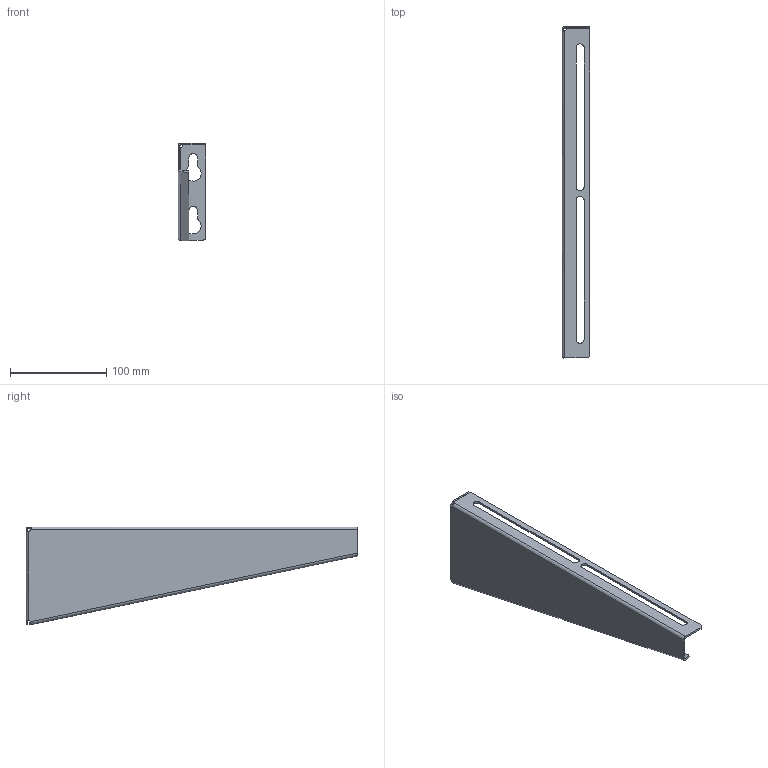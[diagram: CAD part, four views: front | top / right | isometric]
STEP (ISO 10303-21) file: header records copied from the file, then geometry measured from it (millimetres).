
FILE_DESCRIPTION(/* description */ (''),/* implementation_level */ '2;1');
FILE_NAME(/* name */ 'NZMU300_part',/* time_stamp */ '2022-09-01T12:30:42+02:00',/* author */ (''),/* organization */ (''),/* preprocessor_version */ 'ST-DEVELOPER v16.5',/* originating_system */ '',/* authorisation */ '');
FILE_SCHEMA (('CONFIG_CONTROL_DESIGN'));
Length unit declared in the file: millimetre
Products named in the file (1): Document
Bounding box: 29 x 345.3 x 101.94 mm (x, y, z)
Volume: 67993 mm3; surface area: 71492.6 mm2
Topology: 1 solids, 1 shells, 57 faces, 141 edges, 86 vertices
Faces by surface type: plane 28, cylinder 17, bspline 12
Entity records: 1792 total; most frequent: CARTESIAN_POINT 811, ORIENTED_EDGE 282, EDGE_CURVE 141, VERTEX_POINT 86, EDGE_LOOP 65, ADVANCED_FACE 57, FACE_OUTER_BOUND 57, B_SPLINE_CURVE_WITH_KNOTS 52
